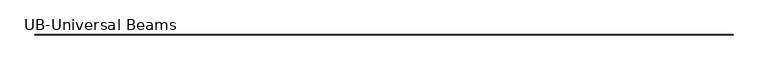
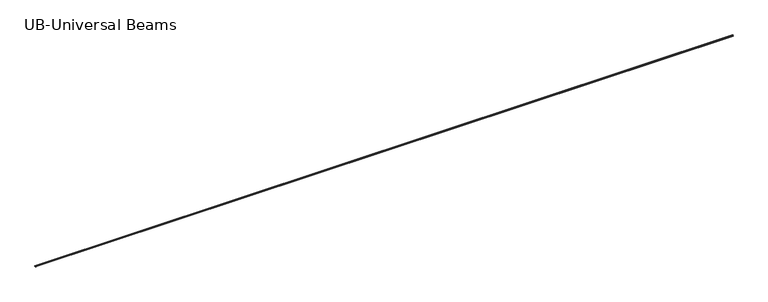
"""IFC4 building model written with IfcOpenShell, lengths in millimetres: beam geometry, UB-Universal Beams : Vezne grede resetke."""

import ifcopenshell
import ifcopenshell.guid

model = None  # the IFC model being written
_history = None  # IfcOwnerHistory: only IFC2X3 demands one
_inside = {}  # id of a spatial element -> (the spatial element, [elements in it])
_under = {}  # id of a project, library or spatial element -> (it, [spatial elements below it])
_declared = {}  # id of a project -> (the project, [libraries it declares])
_typed = {}  # id of a type object -> (the type object, [elements of that type])
_made_of = {}  # id of a material, layer set ... -> (it, [elements and type objects made of it])


def new_model(schema):
    """Start an empty IFC model of exactly this schema.

    Asked for "IFC4X3", IfcOpenShell would pick the latest addendum, in which some entities
    have other attributes; the version numbers below select the first issue.
    IFC2X3 requires an IfcOwnerHistory on every rooted entity: one is made here for all.
    """
    global model, _history
    if schema == "IFC4X3":
        model = ifcopenshell.file(schema_version=(4, 3, 0, 0))
    else:
        model = ifcopenshell.file(schema=schema)
    _inside.clear()
    _under.clear()
    _declared.clear()
    _typed.clear()
    _made_of.clear()
    _history = None
    if model.schema == "IFC2X3":
        org = make("IfcOrganization", Name="unknown")
        user = make(
            "IfcPersonAndOrganization",
            ThePerson=make("IfcPerson", FamilyName="unknown"),
            TheOrganization=org,
        )
        app = make(
            "IfcApplication",
            ApplicationDeveloper=org,
            Version="unknown",
            ApplicationFullName="unknown",
            ApplicationIdentifier="unknown",
        )
        _history = make(
            "IfcOwnerHistory",
            OwningUser=user,
            OwningApplication=app,
            ChangeAction="ADDED",
            CreationDate=0,
        )
    return model


def make(cls, **values):
    """One entity of the class cls with the attributes given. An attribute that is None is left unset."""
    return model.create_entity(
        cls, **{name: value for name, value in values.items() if value is not None}
    )


def rooted(cls, **values):
    """An entity with a GlobalId (a new one), such as an element, a storey or a relation."""
    return make(cls, GlobalId=ifcopenshell.guid.new(), OwnerHistory=_history, **values)


def si_unit(unit_type, name, prefix=None):
    """IfcSIUnit, for example si_unit("LENGTHUNIT", "METRE", prefix="MILLI")."""
    return make("IfcSIUnit", UnitType=unit_type, Prefix=prefix, Name=name)


def assignment(units):
    """IfcUnitAssignment: the units of a project."""
    return None if units is None else make("IfcUnitAssignment", Units=units)


def point(xyz):
    """IfcCartesianPoint."""
    return None if xyz is None else make("IfcCartesianPoint", Coordinates=xyz)


def direction(xyz):
    """IfcDirection."""
    return None if xyz is None else make("IfcDirection", DirectionRatios=xyz)


def frame(location, z_axis=None, x_axis=None):
    """IfcAxis2Placement3D, a coordinate frame: its origin and axes. An axis left out is left unset."""
    return make(
        "IfcAxis2Placement3D",
        Location=point(location),
        Axis=direction(z_axis),
        RefDirection=direction(x_axis),
    )


def frame_2d(location, x_axis=None):
    """IfcAxis2Placement2D, a coordinate frame in the plane: its origin and x axis."""
    return make(
        "IfcAxis2Placement2D", Location=point(location), RefDirection=direction(x_axis)
    )


def origin():
    """The frame at (0, 0, 0) with its axes left unset."""
    return frame((0.0, 0.0, 0.0))


def place(relative_to, where):
    """IfcLocalPlacement: puts the frame where relative to a parent placement (None: the world)."""
    return make(
        "IfcLocalPlacement", PlacementRelTo=relative_to, RelativePlacement=where
    )


def context(
    kind, dimensions, precision=None, world=None, true_north=None, identifier=None
):
    """IfcGeometricRepresentationContext, for example the 3D "Model" context."""
    return make(
        "IfcGeometricRepresentationContext",
        ContextIdentifier=identifier,
        ContextType=kind,
        CoordinateSpaceDimension=dimensions,
        Precision=precision,
        WorldCoordinateSystem=world,
        TrueNorth=true_north,
    )


def project(units=None, contexts=None):
    """IfcProject with its units and contexts."""
    return rooted(
        "IfcProject",
        Name="project",
        RepresentationContexts=contexts,
        UnitsInContext=assignment(units),
    )


def spatial(cls, under=None, at=None, **own):
    """A site, building, storey or space (cls), placed at a placement, below another one or the project."""
    s = rooted(cls, ObjectPlacement=at, **own)
    if under is not None:
        _under.setdefault(under.id(), (under, []))[1].append(s)
    return s


def polyline(points):
    """IfcPolyline through the points."""
    return make("IfcPolyline", Points=[point(p) for p in points])


def circle_curve(where, radius):
    """IfcCircle in the frame where."""
    return make("IfcCircle", Position=where, Radius=radius)


def trimmed(basis, trim1, trim2, sense, master):
    """IfcTrimmedCurve: the piece of a basis curve between two trims."""
    return make(
        "IfcTrimmedCurve",
        BasisCurve=basis,
        Trim1=trim1,
        Trim2=trim2,
        SenseAgreement=sense,
        MasterRepresentation=master,
    )


def segment(curve, same_sense, transition):
    """IfcCompositeCurveSegment."""
    return make(
        "IfcCompositeCurveSegment",
        Transition=transition,
        SameSense=same_sense,
        ParentCurve=curve,
    )


def composite_curve(segments, self_intersect=None):
    """IfcCompositeCurve: segments joined end to end."""
    return make("IfcCompositeCurve", Segments=segments, SelfIntersect=self_intersect)


def outline(outer, holes=None, kind="AREA"):
    """IfcArbitraryClosedProfileDef: a profile drawn as a closed curve; with holes, ...WithVoids."""
    if holes is None:
        return make("IfcArbitraryClosedProfileDef", ProfileType=kind, OuterCurve=outer)
    return make(
        "IfcArbitraryProfileDefWithVoids",
        ProfileType=kind,
        OuterCurve=outer,
        InnerCurves=holes,
    )


def extrude(swept, where, along, depth):
    """IfcExtrudedAreaSolid: the profile swept, set in the frame where, extruded along a direction by depth."""
    return make(
        "IfcExtrudedAreaSolid",
        SweptArea=swept,
        Position=where,
        ExtrudedDirection=direction(along),
        Depth=depth,
    )


def shape(context_of_items, identifier, shape_type, items):
    """IfcShapeRepresentation: the items that make up one representation, for example the "Body"."""
    return make(
        "IfcShapeRepresentation",
        ContextOfItems=context_of_items,
        RepresentationIdentifier=identifier,
        RepresentationType=shape_type,
        Items=items,
    )


def source(mapping_origin, context_of_items, identifier, shape_type, items):
    """IfcRepresentationMap: a shape defined once, which mapped items show again and again."""
    return make(
        "IfcRepresentationMap",
        MappingOrigin=mapping_origin,
        MappedRepresentation=shape(context_of_items, identifier, shape_type, items),
    )


def transform(
    local_origin,
    x_axis=None,
    y_axis=None,
    z_axis=None,
    scale=None,
    scale2=None,
    scale3=None,
    uniform=True,
):
    """IfcCartesianTransformationOperator3D, or its non-uniform kind. x_axis, y_axis, z_axis: its Axis1, 2, 3."""
    if uniform:
        return make(
            "IfcCartesianTransformationOperator3D",
            Axis1=direction(x_axis),
            Axis2=direction(y_axis),
            LocalOrigin=point(local_origin),
            Scale=scale,
            Axis3=direction(z_axis),
        )
    return make(
        "IfcCartesianTransformationOperator3DnonUniform",
        Axis1=direction(x_axis),
        Axis2=direction(y_axis),
        LocalOrigin=point(local_origin),
        Scale=scale,
        Axis3=direction(z_axis),
        Scale2=scale2,
        Scale3=scale3,
    )


def mapped(mapping_source, mapping_target):
    """IfcMappedItem: shows the shape of a source again, moved by a transform."""
    return make(
        "IfcMappedItem", MappingSource=mapping_source, MappingTarget=mapping_target
    )


def made_of(thing, what):
    """Note that an element or type object is made of a material, layer set ...; save() writes the relation."""
    if what is not None:
        _made_of.setdefault(what.id(), (what, []))[1].append(thing)
    return thing


def element(
    cls,
    number,
    at=None,
    inside=None,
    cuts=None,
    type_object=None,
    material=None,
    context=None,
    identifier="Body",
    shape_type=None,
    held_by="IfcProductDefinitionShape",
    body=None,
    shapes=None,
    **own,
):
    """One element of the class cls, such as IfcWall. Its Tag is "e" and its number.

    at: its placement. inside: the storey or other place that contains it. cuts: it is an
    opening in that element (IfcRelVoidsElement). A single representation is given by context,
    identifier, shape_type and body (its items); several are given by shapes. held_by: the class
    of the entity that holds the representations. save() writes the other relations.
    """
    e = rooted(cls, Tag="e%d" % number, ObjectPlacement=at, **own)
    if body is not None:
        shapes = [shape(context, identifier, shape_type, body)]
    if shapes is not None:
        e.Representation = make(held_by, Representations=shapes)
    if inside is not None:
        _inside.setdefault(inside.id(), (inside, []))[1].append(e)
    if cuts is not None:
        rooted(
            "IfcRelVoidsElement", RelatingBuildingElement=cuts, RelatedOpeningElement=e
        )
    if type_object is not None:
        _typed.setdefault(type_object.id(), (type_object, []))[1].append(e)
    return made_of(e, material)


def aggregate(whole, parts):
    """IfcRelAggregates: a whole, such as a stair, and the parts it consists of."""
    return rooted("IfcRelAggregates", RelatingObject=whole, RelatedObjects=parts)


def save(model, path):
    """Write the relations noted so far, then the file.

    IfcRelAggregates (storeys below a building ...), IfcRelContainedInSpatialStructure (elements
    in a storey), IfcRelDefinesByType, IfcRelAssociatesMaterial and IfcRelDeclares: one each for
    every whole, place, type object, material and project.
    """
    for whole, parts in _under.values():
        aggregate(whole, parts)
    for where, things in _inside.values():
        rooted(
            "IfcRelContainedInSpatialStructure",
            RelatedElements=things,
            RelatingStructure=where,
        )
    for kind, things in _typed.values():
        rooted("IfcRelDefinesByType", RelatedObjects=things, RelatingType=kind)
    for what, things in _made_of.values():
        rooted("IfcRelAssociatesMaterial", RelatedObjects=things, RelatingMaterial=what)
    for by, libraries in _declared.values():
        rooted("IfcRelDeclares", RelatingContext=by, RelatedDefinitions=libraries)
    model.write(path)


def ub_universal_beams_bf60295c(model_context):
    return source(origin(), model_context, "Body", "SweptSolid", [
        extrude(outline(composite_curve([segment(polyline([(40.0, -64.8), (40.0, -75.0), (-40.0, -75.0), (-40.0, -64.8), (-11.9, -64.8)]), True, "CONTINUOUS"), segment(trimmed(circle_curve(frame_2d((-11.9, -55.9)), 8.9), [point((-11.9, -64.8))], [point((-3.0, -55.9))], True, "CARTESIAN"), True, "CONTINUOUS"), segment(polyline([(-3.0, -55.9), (-3.0, 55.9)]), True, "CONTINUOUS"), segment(trimmed(circle_curve(frame_2d((-11.9, 55.9)), 8.9), [point((-3.0, 55.9))], [point((-11.9, 64.8))], True, "CARTESIAN"), True, "CONTINUOUS"), segment(polyline([(-11.9, 64.8), (-40.0, 64.8), (-40.0, 75.0), (40.0, 75.0), (40.0, 64.8), (11.9, 64.8)]), True, "CONTINUOUS"), segment(trimmed(circle_curve(frame_2d((11.9, 55.9)), 8.9), [point((11.9, 64.8))], [point((3.0, 55.9))], True, "CARTESIAN"), True, "CONTINUOUS"), segment(polyline([(3.0, 55.9), (3.0, -55.9)]), True, "CONTINUOUS"), segment(trimmed(circle_curve(frame_2d((11.9, -55.9)), 8.9), [point((3.0, -55.9))], [point((11.9, -64.8))], True, "CARTESIAN"), True, "CONTINUOUS"), segment(polyline([(11.9, -64.8), (40.0, -64.8)]), True, "CONTINUOUS")], self_intersect=False)), frame((-50000.0, 0.0, 0.0), z_axis=(1.0, 0.0, 0.0), x_axis=(0.0, 1.0, 0.0)), (0.0, 0.0, 1.0), 100000.0),
    ])


if __name__ == "__main__":
    model = new_model("IFC4")
    model_context = context("Model", 3, world=origin())
    ifc_project = project(units=[si_unit("LENGTHUNIT", "METRE", prefix="MILLI")], contexts=[model_context])
    site = spatial("IfcSite", under=ifc_project)
    building = spatial("IfcBuilding", under=site)
    placement = place(None, origin())
    ub_universal_beams_shape = ub_universal_beams_bf60295c(model_context)
    element("IfcBeam", 1, ObjectType="UB-Universal Beams : Vezne grede resetke", at=placement, inside=building, context=model_context, shape_type="MappedRepresentation", body=[
        mapped(ub_universal_beams_shape, transform((0.0, 0.0, 0.0), x_axis=(1.0, 0.0, 0.0), y_axis=(0.0, 1.0, 0.0), z_axis=(0.0, 0.0, 1.0))),
    ])
    save(model, "model.ifc")
